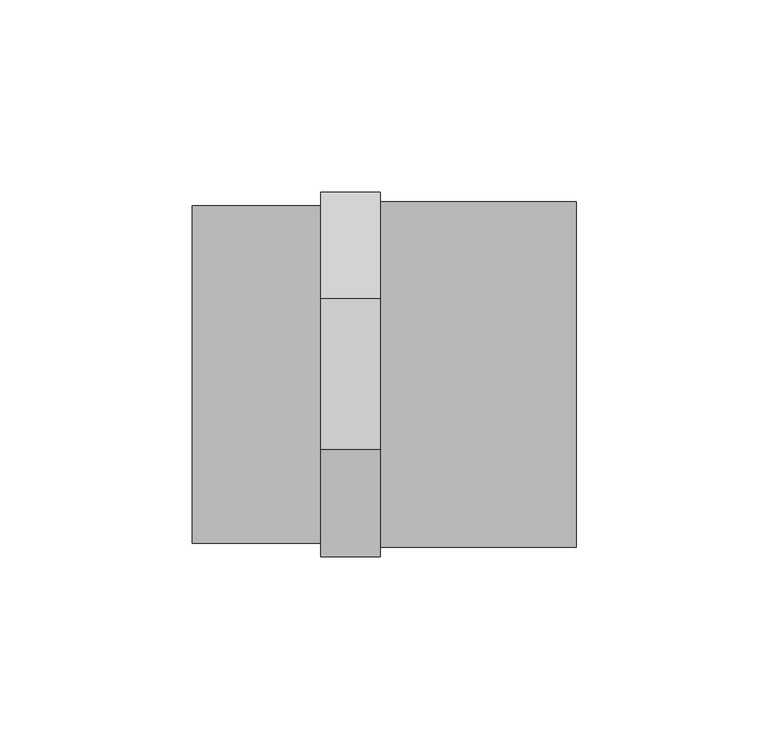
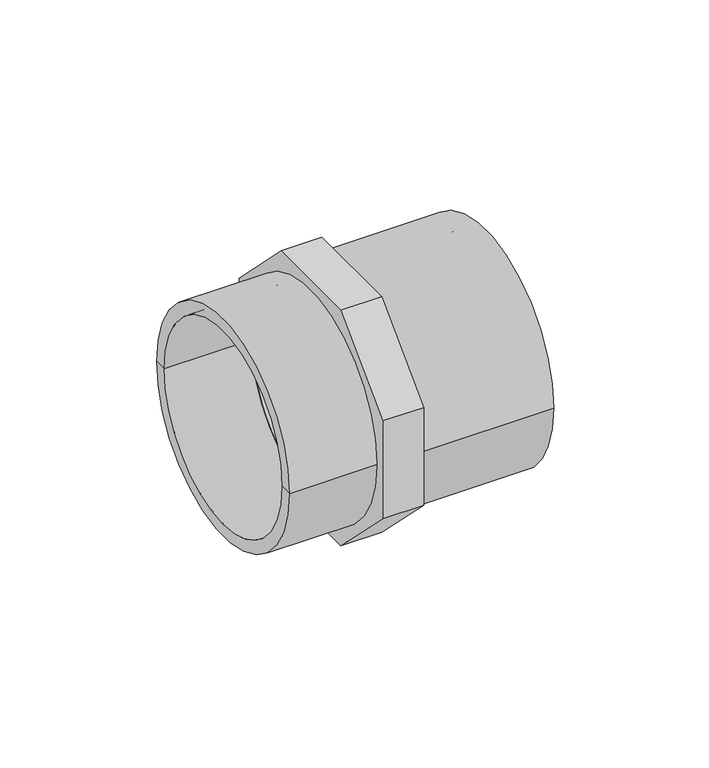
"""IFC4 building model written with IfcOpenShell, lengths in millimetres: pipe fitting geometry, Durapipe_PipeFitting_PVC_MaleThreadedAdaptors : 90 x 75 x G3."""

from ifc_helpers import new_model, si_unit, point, frame, origin, origin_2d, place, context, project, spatial, polyline, circle_curve, trimmed, segment, composite_curve, outline, extrude, source, transform, mapped, element, save
from ifc_brep_helpers import plane_surface, cylinder_surface, revolved_surface, advanced_brep


def pipe_fitting_eaadc510(model_context):
    return source(origin(), model_context, "Body", "SolidModel", [
        extrude(outline(polyline([(47.5, 19.6751442), (47.5, -19.6751442), (19.6751442, -47.5), (-19.6751442, -47.5), (-47.5, -19.6751442), (-47.5, 19.6751442), (-19.6751442, 47.5), (19.6751442, 47.5), (47.5, 19.6751442)]), holes=[composite_curve([segment(trimmed(circle_curve(origin_2d(), 39.0), [point((39.0, 0.0))], [point((-39.0, 0.0))], True, "CARTESIAN"), True, "CONTINUOUS"), segment(trimmed(circle_curve(origin_2d(), 39.0), [point((-39.0, 0.0))], [point((39.0, 0.0))], True, "CARTESIAN"), True, "CONTINUOUS")], self_intersect=False)]), frame((-15.5, 0.0, 0.0), z_axis=(1.0, 0.0, 0.0), x_axis=(0.0, 1.0, 0.0)), (0.0, 0.0, 1.0), 15.5),
        advanced_brep(
        [(0.0, -45.0, 0.0), (0.0, 45.0, 0.0), (51.0, 45.0, 0.0), (51.0, -45.0, 0.0), (51.0, 37.5, 0.0), (51.0, -37.5, 0.0), (0.0, -37.5, 0.0), (0.0, 37.5, 0.0)],
        [
            (0, 1, circle_curve(frame((0.0, 0.0, 0.0), z_axis=(1.0, 0.0, 0.0), x_axis=(0.0, 1.0, 0.0)), 45.0)),
            (1, 2),
            (2, 3, circle_curve(frame((51.0, 0.0, 0.0), z_axis=(-1.0, 0.0, 0.0), x_axis=(0.0, 1.0, 0.0)), 45.0)),
            (3, 0),
            (1, 0, circle_curve(frame((0.0, 0.0, 0.0), z_axis=(1.0, 0.0, 0.0), x_axis=(0.0, 1.0, 0.0)), 45.0)),
            (3, 2, circle_curve(frame((51.0, 0.0, 0.0), z_axis=(-1.0, 0.0, 0.0), x_axis=(0.0, 1.0, 0.0)), 45.0)),
            (2, 4),
            (4, 5, circle_curve(frame((51.0, 0.0, 0.0), z_axis=(-1.0, 0.0, 0.0), x_axis=(0.0, 1.0, 0.0)), 37.5)),
            (5, 3),
            (5, 4, circle_curve(frame((51.0, 0.0, 0.0), z_axis=(-1.0, 0.0, 0.0), x_axis=(0.0, 1.0, 0.0)), 37.5)),
            (0, 6),
            (6, 7, circle_curve(frame((0.0, 0.0, 0.0), z_axis=(1.0, 0.0, 0.0), x_axis=(0.0, 1.0, 0.0)), 37.5)),
            (7, 1),
            (7, 6, circle_curve(frame((0.0, 0.0, 0.0), z_axis=(1.0, 0.0, 0.0), x_axis=(0.0, 1.0, 0.0)), 37.5)),
            (4, 7),
            (6, 5),
        ],
        [
            cylinder_surface(frame((452.4572068, 0.0, 0.0), z_axis=(-1.0, 0.0, 0.0), x_axis=(0.0, 1.0, 0.0)), 45.0),
            plane_surface(frame((51.0, 0.0, 0.0), z_axis=(1.0, 0.0, 0.0), x_axis=(0.0, 1.0, 0.0))),
            plane_surface(frame((0.0, 0.0, 0.0), z_axis=(-1.0, 0.0, 0.0), x_axis=(0.0, 1.0, 0.0))),
            revolved_surface(polyline([(0.0, 37.5, 0.0), (51.0, 37.5, 0.0)]), (64.5575137, 0.0, 0.0), (-1.0, 0.0, 0.0)),
        ],
        [
            (0, [[1, 2, 3, 4]]),
            (0, [[-2, 5, -4, 6]]),
            (1, [[-3, 7, 8, 9]]),
            (1, [[-6, -9, 10, -7]]),
            (2, [[-1, 11, 12, 13]]),
            (2, [[-5, -13, 14, -11]]),
            (3, [[15, -12, 16, -8]]),
            (3, [[-15, -10, -16, -14]]),
        ],
    ),
        advanced_brep(
        [(-15.5, -39.0, 0.0), (-15.5, 39.0, 0.0), (-49.0, 39.0, 0.0), (-49.0, -39.0, 0.0), (-15.5, -43.95, 0.0), (-15.5, 43.95, 0.0), (-49.0, -43.95, 0.0), (-49.0, 43.95, 0.0)],
        [
            (0, 1, circle_curve(frame((-15.5, 0.0, 0.0), z_axis=(1.0, 0.0, 0.0), x_axis=(0.0, 1.0, 0.0)), 39.0)),
            (1, 2),
            (2, 3, circle_curve(frame((-49.0, 0.0, 0.0), z_axis=(-1.0, 0.0, 0.0), x_axis=(0.0, 1.0, 0.0)), 39.0)),
            (3, 0),
            (1, 0, circle_curve(frame((-15.5, 0.0, 0.0), z_axis=(1.0, 0.0, 0.0), x_axis=(0.0, 1.0, 0.0)), 39.0)),
            (3, 2, circle_curve(frame((-49.0, 0.0, 0.0), z_axis=(-1.0, 0.0, 0.0), x_axis=(0.0, 1.0, 0.0)), 39.0)),
            (4, 5, circle_curve(frame((-15.5, 0.0, 0.0), z_axis=(1.0, 0.0, 0.0), x_axis=(0.0, 1.0, 0.0)), 43.95)),
            (5, 1),
            (0, 4),
            (5, 4, circle_curve(frame((-15.5, 0.0, 0.0), z_axis=(1.0, 0.0, 0.0), x_axis=(0.0, 1.0, 0.0)), 43.95)),
            (6, 7, circle_curve(frame((-49.0, 0.0, 0.0), z_axis=(1.0, 0.0, 0.0), x_axis=(0.0, 1.0, 0.0)), 43.95)),
            (7, 5),
            (4, 6),
            (7, 6, circle_curve(frame((-49.0, 0.0, 0.0), z_axis=(1.0, 0.0, 0.0), x_axis=(0.0, 1.0, 0.0)), 43.95)),
            (2, 7),
            (6, 3),
        ],
        [
            revolved_surface(polyline([(-49.0, 39.0, 0.0), (-15.5, 39.0, 0.0)]), (-64.0, 0.0, 0.0), (-1.0, 0.0, 0.0)),
            plane_surface(frame((-15.5, 0.0, 0.0), z_axis=(1.0, 0.0, 0.0), x_axis=(0.0, 1.0, 0.0))),
            cylinder_surface(frame((-64.0, 0.0, 0.0), z_axis=(-1.0, 0.0, 0.0), x_axis=(0.0, 1.0, 0.0)), 43.95),
            plane_surface(frame((-49.0, 0.0, 0.0), z_axis=(-1.0, 0.0, 0.0), x_axis=(0.0, 1.0, 0.0))),
        ],
        [
            (0, [[1, 2, 3, 4]]),
            (0, [[5, -4, 6, -2]]),
            (1, [[7, 8, -1, 9]]),
            (1, [[10, -9, -5, -8]]),
            (2, [[11, 12, -7, 13]]),
            (2, [[14, -13, -10, -12]]),
            (3, [[-3, 15, -11, 16]]),
            (3, [[-6, -16, -14, -15]]),
        ],
    ),
    ])


if __name__ == "__main__":
    model = new_model("IFC4")
    model_context = context("Model", 3, world=origin())
    ifc_project = project(units=[si_unit("LENGTHUNIT", "METRE", prefix="MILLI")], contexts=[model_context])
    site = spatial("IfcSite", under=ifc_project)
    building = spatial("IfcBuilding", under=site)
    placement = place(None, origin())
    pipe_fitting_shape = pipe_fitting_eaadc510(model_context)
    element("IfcPipeFitting", 1, ObjectType="Durapipe_PipeFitting_PVC_MaleThreadedAdaptors : 90 x 75 x G3", at=placement, inside=building, context=model_context, shape_type="MappedRepresentation", body=[
        mapped(pipe_fitting_shape, transform((0.0, 0.0, 0.0), x_axis=(1.0, 0.0, 0.0), y_axis=(0.0, 1.0, 0.0), z_axis=(0.0, 0.0, 1.0))),
    ])
    save(model, "model.ifc")
